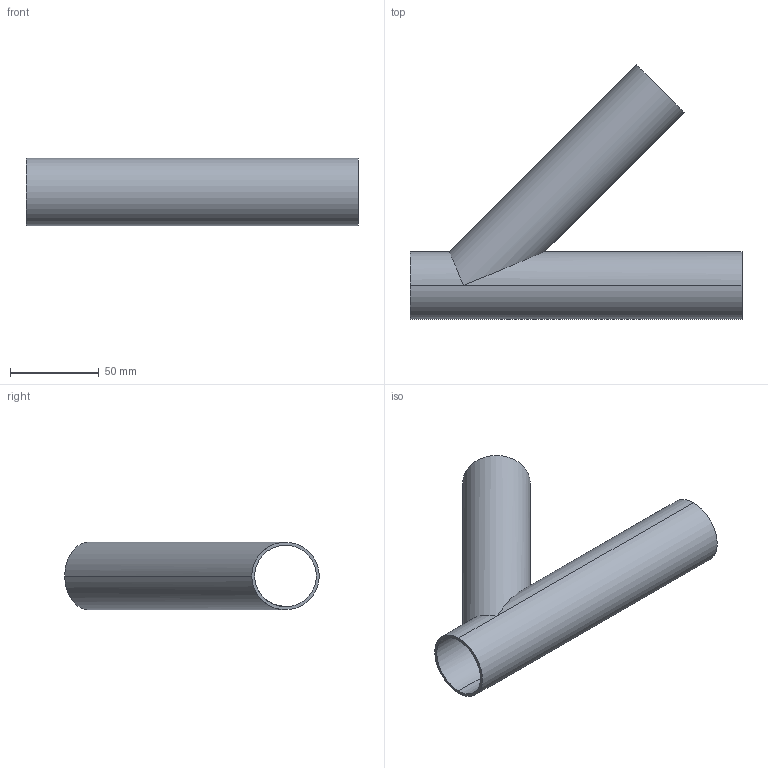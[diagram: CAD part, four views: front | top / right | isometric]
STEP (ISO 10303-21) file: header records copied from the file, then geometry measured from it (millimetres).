
FILE_DESCRIPTION (( 'STEP AP214' ), '1' );
FILE_NAME ('TE28WA6L1.5-...STEP', '2016-05-24T12:42:54', ( 'eran' ), ( '' ), 'SwSTEP 2.0', 'SolidWorks 2016', '' );
FILE_SCHEMA (( 'AUTOMOTIVE_DESIGN' ));
Length unit declared in the file: millimetre
Products named in the file (1): TE28WA6L1.5-..
Bounding box: 187.4 x 143.68 x 38.1 mm (x, y, z)
Volume: 58905.1 mm3; surface area: 71956.7 mm2
Topology: 1 solids, 1 shells, 13 faces, 32 edges, 20 vertices
Faces by surface type: cylinder 10, plane 3
Entity records: 428 total; most frequent: CARTESIAN_POINT 90, ORIENTED_EDGE 64, DIRECTION 64, EDGE_CURVE 32, AXIS2_PLACEMENT_3D 26, VERTEX_POINT 20, EDGE_LOOP 16, ADVANCED_FACE 13
